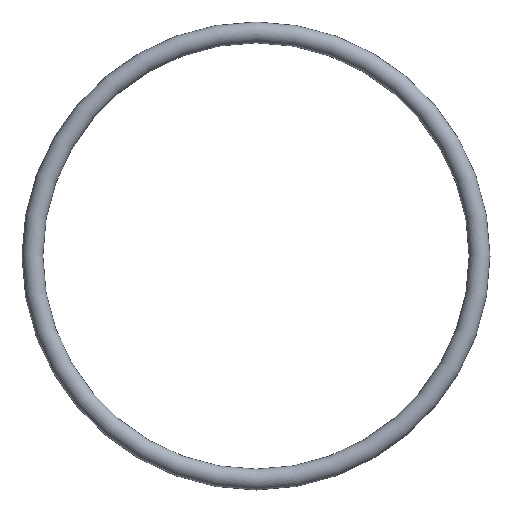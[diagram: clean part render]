
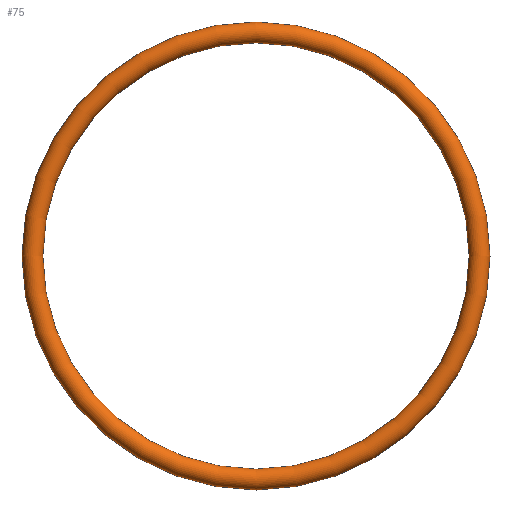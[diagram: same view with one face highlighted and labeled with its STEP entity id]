
A CAD part, front view. The second image highlights one B-rep face of the part: STEP entity #75.
In plain terms, the highlighted toroidal (fillet/blend) face has major radius 26.75 mm and minor radius 1.25 mm.
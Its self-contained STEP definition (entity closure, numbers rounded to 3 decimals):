
#75 = ADVANCED_FACE( '', ( #77 ), #78, .T. );
#77 = FACE_BOUND( '', #79, .T. );
#78 = TOROIDAL_SURFACE( '', #80, 26.75, 1.25 );
#79 = VERTEX_LOOP( '', #81 );
#80 = AXIS2_PLACEMENT_3D( '', #82, #83, #84 );
#81 = VERTEX_POINT( '', #85 );
#82 = CARTESIAN_POINT( '', ( 0., 0., 0. ) );
#83 = DIRECTION( '', ( 0., -1., 0. ) );
#84 = DIRECTION( '', ( 0., 0., -1. ) );
#85 = CARTESIAN_POINT( '', ( 0., 0., -28. ) );
